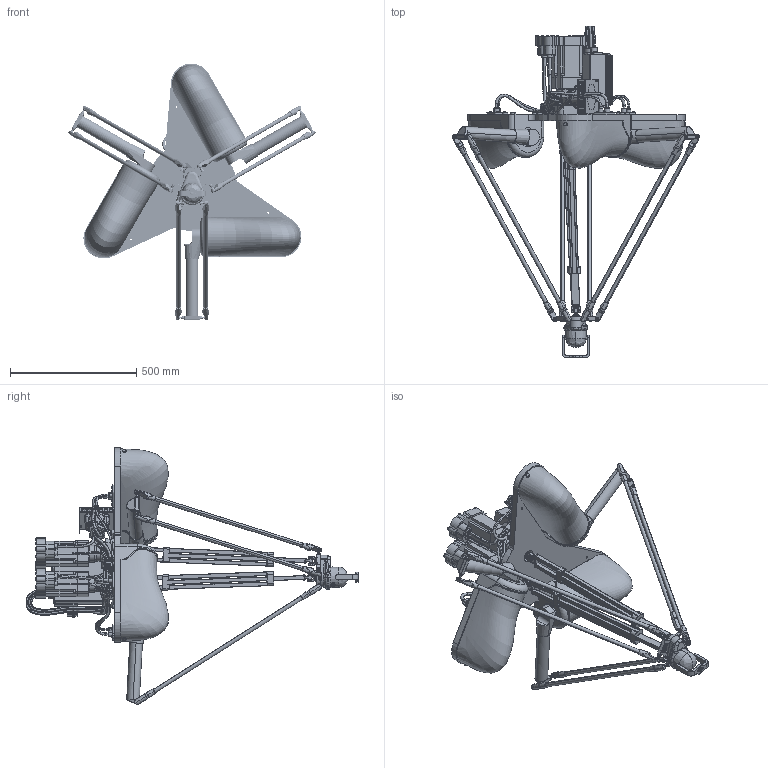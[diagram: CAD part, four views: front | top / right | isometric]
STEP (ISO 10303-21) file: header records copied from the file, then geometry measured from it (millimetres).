
FILE_DESCRIPTION (( 'STEP AP214' ), '1' );
FILE_NAME ('IRB365_1.5_1100_OmniCore_rev00_ASM_CAD.STEP', '2022-07-18T09:22:36', ( '' ), ( '' ), 'SwSTEP 2.0', 'SolidWorks 2020', '' );
FILE_SCHEMA (( 'AUTOMOTIVE_DESIGN' ));
Length unit declared in the file: millimetre
Products named in the file (1): IRB365_1.5_1100_OmniCore_rev00_ASM_CAD
Bounding box: 978.5 x 1314.12 x 1016.09 mm (x, y, z)
Volume: 47793745.3 mm3; surface area: 3067063.4 mm2
Topology: 26 solids, 34 shells, 3658 faces, 9378 edges, 5956 vertices
Faces by surface type: plane 1454, cylinder 1421, bspline 305, torus 259, cone 135, sphere 84
Entity records: 278768 total; most frequent: CARTESIAN_POINT 150276, ORIENTED_EDGE 18620, DIRECTION 18335, EDGE_CURVE 9310, AXIS2_PLACEMENT_3D 7021, VERTEX_POINT 5944, VECTOR 4293, LINE 4293
